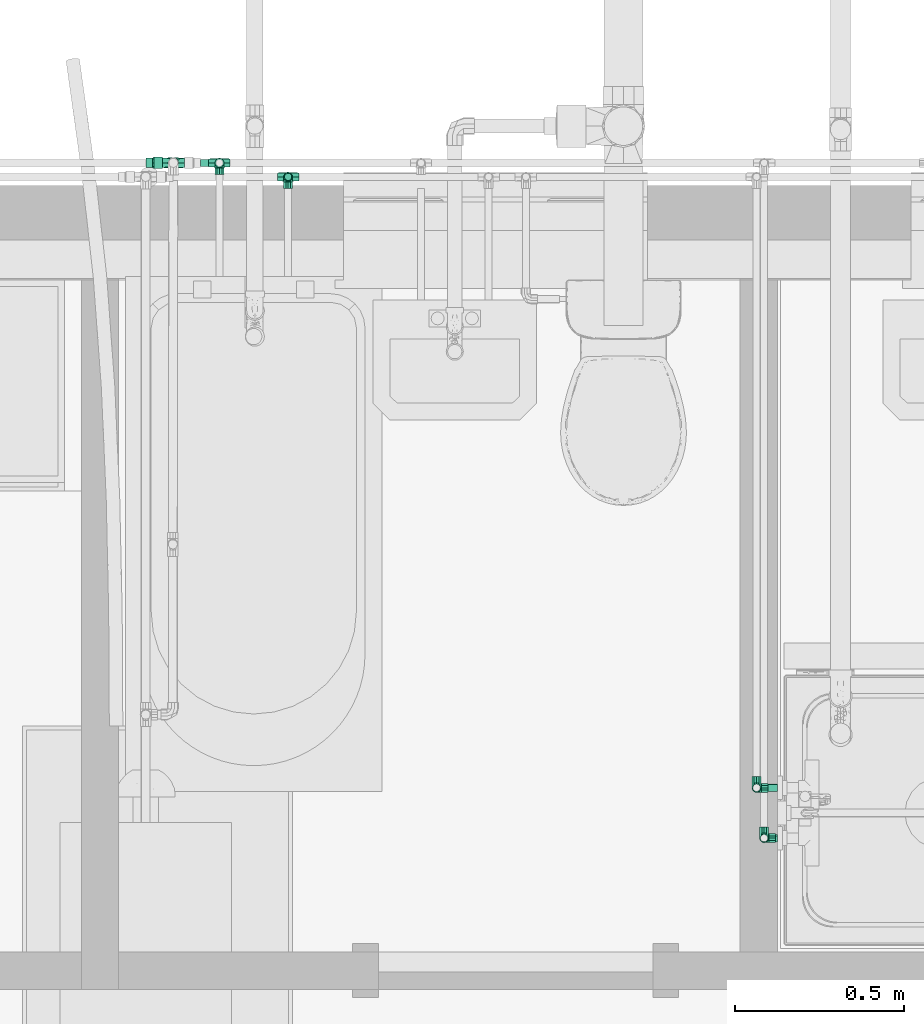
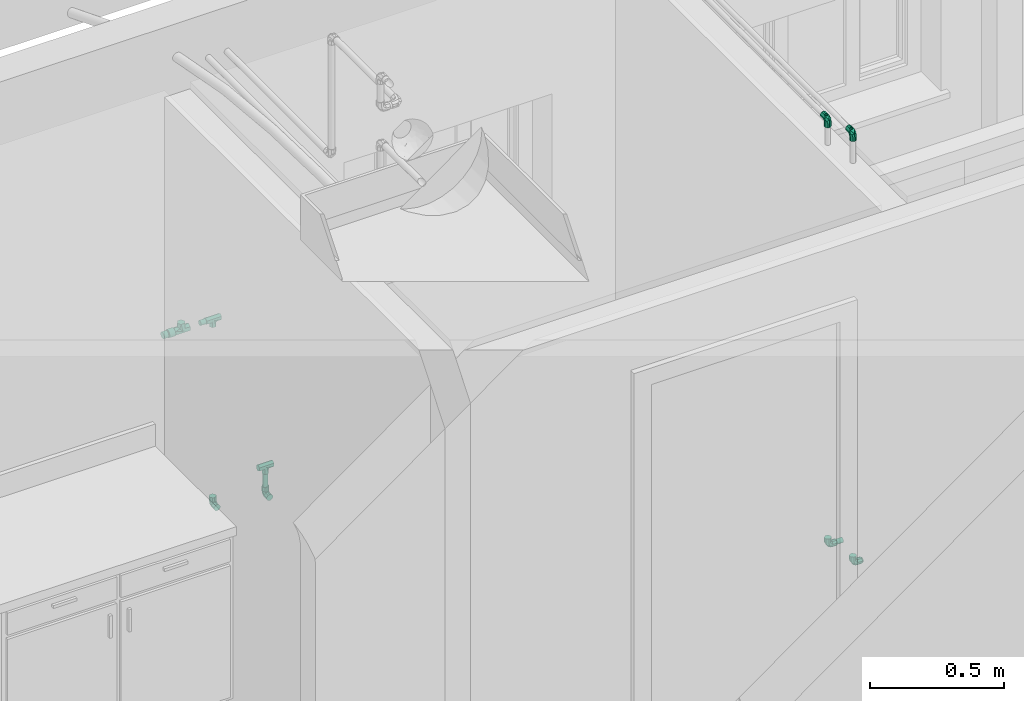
# One storey, part 28 of 41: 10 flow fittings, 4 flow segments.
"""IFC2X3 building model written with IfcOpenShell, lengths in millimetres."""

from ifc_helpers import new_model, entity, si_unit, converted_unit, derived_unit, direction, frame, frame_2d, origin, origin_2d_with_axis, place, context, subcontext, project, spatial, circle, extrude, faceted_brep, source, transform, mapped, type_object, type_shapes, element, save


model = new_model("IFC2X3")

# Units and contexts
model_context = context("Model", 3, precision=0.01, world=origin(), true_north=direction((6.12303176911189e-17, 1.0)))
body_context = subcontext(model_context, "Body", "Model", "MODEL_VIEW")
ifc_project = project(units=[si_unit("LENGTHUNIT", "METRE", prefix="MILLI"), si_unit("AREAUNIT", "SQUARE_METRE"), si_unit("VOLUMEUNIT", "CUBIC_METRE"), converted_unit("PLANEANGLEUNIT", "DEGREE", entity("IfcRatioMeasure", 0.0174532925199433), si_unit("PLANEANGLEUNIT", "RADIAN"), dimensions=[0, 0, 0, 0, 0, 0, 0]), si_unit("MASSUNIT", "GRAM", prefix="KILO"), derived_unit("MASSDENSITYUNIT", [(si_unit("MASSUNIT", "GRAM", prefix="KILO"), 1), (si_unit("LENGTHUNIT", "METRE"), -3)]), si_unit("TIMEUNIT", "SECOND"), si_unit("FREQUENCYUNIT", "HERTZ"), si_unit("THERMODYNAMICTEMPERATUREUNIT", "DEGREE_CELSIUS"), derived_unit("THERMALTRANSMITTANCEUNIT", [(si_unit("MASSUNIT", "GRAM", prefix="KILO"), 1), (si_unit("THERMODYNAMICTEMPERATUREUNIT", "KELVIN"), -1), (si_unit("TIMEUNIT", "SECOND"), -3)]), derived_unit("VOLUMETRICFLOWRATEUNIT", [(si_unit("LENGTHUNIT", "METRE"), 3), (si_unit("TIMEUNIT", "SECOND"), -1)]), si_unit("ELECTRICCURRENTUNIT", "AMPERE"), si_unit("ELECTRICVOLTAGEUNIT", "VOLT"), si_unit("POWERUNIT", "WATT"), si_unit("FORCEUNIT", "NEWTON", prefix="KILO"), si_unit("ILLUMINANCEUNIT", "LUX"), si_unit("LUMINOUSFLUXUNIT", "LUMEN"), si_unit("LUMINOUSINTENSITYUNIT", "CANDELA"), derived_unit("USERDEFINED", [(si_unit("MASSUNIT", "GRAM", prefix="KILO"), -1), (si_unit("LENGTHUNIT", "METRE"), -2), (si_unit("TIMEUNIT", "SECOND"), 3), (si_unit("LUMINOUSFLUXUNIT", "LUMEN"), 1)]), derived_unit("LINEARVELOCITYUNIT", [(si_unit("LENGTHUNIT", "METRE"), 1), (si_unit("TIMEUNIT", "SECOND"), -1)]), si_unit("PRESSUREUNIT", "PASCAL"), derived_unit("USERDEFINED", [(si_unit("LENGTHUNIT", "METRE"), -2), (si_unit("MASSUNIT", "GRAM", prefix="KILO"), 1), (si_unit("TIMEUNIT", "SECOND"), -2)])], contexts=[model_context])

# Site, building, storey
site_placement = place(None, origin())
site = spatial("IfcSite", under=ifc_project, at=site_placement, Name="Surface", CompositionType="ELEMENT")
building_placement = place(site_placement, origin())
building = spatial("IfcBuilding", under=site, at=building_placement, CompositionType="ELEMENT")
storey_placement = place(building_placement, frame((0.0, 0.0, 300.0)))
storey = spatial("IfcBuildingStorey", under=building, at=storey_placement, Name="F.F.L", CompositionType="ELEMENT", Elevation=300.0)

# Flow segments
pipe_segment_type = type_object("IfcPipeSegmentType", Name="Pipe Types:PVC80", PredefinedType="NOTDEFINED")
flow_segment_1_placement = place(storey_placement, origin())
element("IfcFlowSegment", 1, at=flow_segment_1_placement, inside=storey, type_object=pipe_segment_type, Name="Pipe Types:PVC80", ObjectType="Pipe Types:PVC80", context=body_context, shape_type="SweptSolid", body=[
    extrude(circle(Radius=10.668, at=origin_2d_with_axis()), frame((-3975.27517007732, 10850.8400891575, 291.273083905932), z_axis=(0.0, 0.0, 1.0), x_axis=(-1.0, 0.0, 0.0)), (0.0, 0.0, 1.0), 60.1769160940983),
])
flow_segment_2_placement = place(storey_placement, origin())
element("IfcFlowSegment", 2, at=flow_segment_2_placement, inside=storey, type_object=pipe_segment_type, Name="Pipe Types:PVC80", ObjectType="Pipe Types:PVC80", context=body_context, shape_type="SweptSolid", body=[
    extrude(circle(Radius=10.668, at=origin_2d_with_axis()), frame((-2532.27515991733, 8893.13299212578, 633.824237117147), z_axis=(1.0, 0.0, 0.0), x_axis=(0.0, 1.0, 0.0)), (0.0, 0.0, 1.0), 5.39998984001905),
])
flow_segment_3_placement = place(storey_placement, origin())
element("IfcFlowSegment", 3, at=flow_segment_3_placement, inside=storey, type_object=pipe_segment_type, Name="Pipe Types:PVC80", ObjectType="Pipe Types:PVC80", context=body_context, shape_type="SweptSolid", body=[
    extrude(circle(Radius=10.668, at=origin_2d_with_axis()), frame((-2554.77515991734, 9042.15485747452, 633.824237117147), z_axis=(1.0, 0.0, 0.0), x_axis=(0.0, 1.0, 0.0)), (0.0, 0.0, 1.0), 27.8999898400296),
])
flow_segment_4_placement = place(storey_placement, origin())
element("IfcFlowSegment", 4, at=flow_segment_4_placement, inside=storey, type_object=pipe_segment_type, Name="Pipe Types:PVC80", ObjectType="Pipe Types:PVC80", context=body_context, shape_type="SweptSolid", body=[
    extrude(circle(Radius=10.668, at=frame_2d((8.66293703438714e-12, 0.0), x_axis=(1.0, 0.0))), frame((-4234.73581810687, 10892.2567375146, 1100.0), z_axis=(1.0, 0.0, 0.0), x_axis=(0.0, 1.0, 0.0)), (0.0, 0.0, 1.0), 24.5106480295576),
])

# Flow fittings
pipe_fitting_type_1 = type_object("IfcPipeFittingType", Name="Standard", PredefinedType="NOTDEFINED")
shared_shape_1 = source(origin(), body_context, "Body", "Brep", [
    faceted_brep([(-33.7375499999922, 3.59598004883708, -13.4203802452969), (-33.7375499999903, -3.59598004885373, -13.420380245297), (-33.7375499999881, -12.0323837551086, -6.94690000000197), (-33.7375499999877, -13.8938000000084, 0.0), (-33.7375499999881, -12.0323837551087, 6.94689999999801), (-33.7375499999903, -3.59598004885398, 13.4203802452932), (-33.7375499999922, 3.59598004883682, 13.4203802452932), (-33.7375499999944, 12.0323837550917, 6.94689999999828), (-33.7375499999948, 13.8937999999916, 0.0), (-33.7375499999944, 12.0323837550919, -6.94690000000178), (-14.6875499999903, -13.8938000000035, 0.0), (-14.6875499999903, -12.0323837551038, 6.94689999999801), (-14.6875499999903, -3.59598004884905, 13.4203802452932), (-14.6875499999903, 3.59598004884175, 13.4203802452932), (3.59598004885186, 33.7375499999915, 13.4203802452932), (-3.59598004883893, 33.7375499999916, 13.4203802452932), (-3.59598004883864, 14.6875499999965, 13.4203802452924), (3.59598004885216, 14.6875499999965, 13.420380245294), (-14.6875499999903, 12.0323837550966, 6.94689999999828), (-14.6875499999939, 13.8937999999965, 0.0), (-14.6875499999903, 12.0323837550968, -6.94690000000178), (-14.6875499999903, 3.595980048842, -13.4203802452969), (-14.6875499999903, -3.59598004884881, -13.420380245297), (-3.59598004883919, 33.7375499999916, -13.4203802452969), (3.59598004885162, 33.7375499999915, -13.420380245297), (3.59598004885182, 14.6875499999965, -13.4203802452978), (-3.59598004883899, 14.6875499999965, -13.420380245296), (-14.6875499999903, -12.0323837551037, -6.94690000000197), (-0.73570850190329, 0.735706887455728, 12.9461366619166), (-5.12124733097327, -8.86554492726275, 8.82133054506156), (-3.19746952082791, -7.25999894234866, 0.0), (8.85075041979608, 5.0327975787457, 8.79727043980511), (12.0323837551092, 14.6875499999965, 6.94689999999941), (10.0646251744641, 0.396874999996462, 0.0), (-14.1262839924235, 14.1262839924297, 0.0), (-12.0323837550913, 14.6875499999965, 6.94689999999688), (-8.39237862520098, 8.39237845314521, 12.6322359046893), (13.8938000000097, 14.6875499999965, 0.0), (-13.8937999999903, 14.6875499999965, 0.0), (12.032383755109, 14.6875499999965, -6.94690000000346), (8.85074986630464, 5.03279761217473, -8.79727108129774), (-5.12124714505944, -8.86554487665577, -8.82133051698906), (-0.735707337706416, 0.735706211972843, -12.9461361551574), (-12.0323837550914, 14.6875499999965, -6.9469000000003), (-8.39237835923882, 8.3923781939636, -12.6322360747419), (-12.032383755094, 33.7375499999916, -6.94690000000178), (-13.8937999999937, 33.7375499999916, 0.0), (-12.0323837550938, 33.7375499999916, 6.94689999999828), (12.0323837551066, 33.7375499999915, 6.94689999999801), (13.8938000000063, 33.7375499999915, 0.0), (12.0323837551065, 33.7375499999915, -6.94690000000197)], [[[0, 1, 2, 3, 4, 5, 6, 7, 8, 9]], [[3, 10, 11, 4]], [[4, 11, 12, 5]], [[12, 13, 6, 5]], [[14, 15, 16, 17]], [[6, 13, 18, 7]], [[7, 18, 19, 8]], [[8, 19, 20, 9]], [[9, 20, 21, 0]], [[21, 22, 1, 0]], [[23, 24, 25, 26]], [[1, 22, 27, 2]], [[2, 27, 10, 3]], [[12, 28, 13]], [[29, 11, 30]], [[31, 28, 29]], [[28, 12, 29]], [[32, 31, 33]], [[34, 18, 35]], [[18, 36, 35]], [[34, 19, 18]], [[18, 13, 36]], [[11, 10, 30]], [[29, 33, 31]], [[33, 37, 32]], [[29, 30, 33]], [[32, 17, 31]], [[28, 36, 13]], [[34, 35, 38]], [[29, 12, 11]], [[35, 36, 16]], [[28, 16, 36]], [[17, 28, 31]], [[16, 28, 17]], [[20, 19, 34]], [[39, 40, 25]], [[40, 41, 42]], [[20, 43, 44]], [[41, 30, 27]], [[42, 21, 44]], [[41, 33, 30]], [[42, 44, 26]], [[27, 30, 10]], [[20, 34, 43]], [[43, 26, 44]], [[42, 25, 40]], [[41, 27, 22]], [[25, 42, 26]], [[40, 39, 33]], [[22, 21, 42]], [[39, 37, 33]], [[22, 42, 41]], [[33, 41, 40]], [[20, 44, 21]], [[43, 34, 38]], [[23, 45, 46, 47, 15, 14, 48, 49, 50, 24]], [[37, 49, 48, 32]], [[32, 48, 14, 17]], [[16, 15, 47, 35]], [[35, 47, 46, 38]], [[38, 46, 45, 43]], [[43, 45, 23, 26]], [[25, 24, 50, 39]], [[39, 50, 49, 37]]]),
])
type_shapes(pipe_fitting_type_1, [shared_shape_1])
for number, where, z_axis, x_axis, name in (
    (5, (-3975.27517007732, 10850.8400891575, 257.535533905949), (1.0, 0.0, 0.0), (0.0, 1.0, 0.0), "M_Elbow - PVC - Sch 40:Standard"),
    (6, (-4178.47517007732, 10892.2567375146, 257.535533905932), (-1.0, 0.0, 0.0), (0.0, 0.0, -1.0), "M_Elbow - PVC - Sch 40:Standard"),
    (7, (-2566.01270991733, 8893.13299212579, 2600.0), (1.0, 0.0, 0.0), (0.0, -1.0, 0.0), "M_Elbow - PVC - Sch 40:Standard"),
    (8, (-2566.01270991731, 8893.13299212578, 633.82423711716), (0.0, -1.0, 0.0), (0.0, 0.0, -1.0), "M_Elbow - PVC - Sch 40:Standard"),
    (9, (-2588.51270991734, 9042.15485747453, 2580.0), (1.0, 0.0, 0.0), (0.0, -1.0, 0.0), "M_Elbow - PVC - Sch 40:Standard"),
    (10, (-2588.51270991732, 9042.15485747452, 633.824237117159), (0.0, -1.0, 0.0), (0.0, 0.0, -1.0), "M_Elbow - PVC - Sch 40:Standard"),
):
    element("IfcFlowFitting", number, at=place(storey_placement, frame(where, z_axis=z_axis, x_axis=x_axis)), inside=storey, type_object=pipe_fitting_type_1, Name=name, ObjectType="Standard", context=body_context, shape_type="MappedRepresentation", body=[
        mapped(shared_shape_1, transform((0.0, 0.0, 0.0), scale=1.0)),
    ])
pipe_fitting_type_2 = type_object("IfcPipeFittingType", Name="Standard", PredefinedType="NOTDEFINED")
shared_shape_2 = source(origin(), body_context, "Body", "Brep", [
    faceted_brep([(-31.7499999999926, -6.94690000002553, 12.0323837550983), (-31.7499999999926, 0.0, 12.0323837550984), (-31.7499999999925, 6.94689999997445, 12.0323837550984), (-31.7499999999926, 10.4203499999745, 6.01619187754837), (-31.7499999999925, 13.8937999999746, 0.0), (-31.7499999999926, 10.4203499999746, -6.01619187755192), (-31.7499999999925, 6.94689999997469, -12.0323837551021), (-31.7499999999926, 0.0, -12.0323837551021), (-31.7499999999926, -6.94690000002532, -12.0323837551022), (-31.7499999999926, -10.4203500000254, -6.01619187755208), (-31.7499999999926, -13.8938000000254, 0.0), (-31.7499999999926, -12.1942000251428, 2.94379350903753), (-31.7499999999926, -10.4203500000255, 6.0161918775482), (31.7500000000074, -6.94690000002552, -12.0323837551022), (31.7500000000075, 0.0, -12.0323837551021), (31.7500000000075, 6.94689999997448, -12.0323837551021), (31.7500000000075, 10.4945999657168, -5.88758716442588), (31.7500000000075, 13.8937999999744, 0.0), (31.7500000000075, 10.4203499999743, 6.01619187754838), (31.7500000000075, 6.94689999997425, 12.0323837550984), (31.7500000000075, 0.0, 12.0323837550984), (31.7500000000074, -6.94690000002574, 12.0323837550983), (31.7500000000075, -10.4203500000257, 6.01619187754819), (31.7500000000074, -13.8938000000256, 0.0), (31.7500000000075, -12.1941999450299, -2.94379364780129), (31.7500000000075, -10.4203500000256, -6.01619187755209), (11.9878956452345, -11.9878956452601, 4.77993540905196), (10.081991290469, -10.0819912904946, 9.55987081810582), (0.0, 0.0, 13.8937999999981), (-13.8938, -13.8938000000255, 0.0), (-10.8405074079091, -10.8405074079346, 5.75319397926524), (-10.7027027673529, -10.7027027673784, 6.01285361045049), (-7.78721481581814, -7.78721481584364, 11.5063879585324), (13.8938, -13.8938000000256, 0.0), (-11.9878956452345, -11.98789564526, -4.77993540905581), (0.0, 0.0, -13.8938000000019), (-10.0819912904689, -10.0819912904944, -9.55987081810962), (10.840507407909, -10.8405074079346, -5.75319397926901), (10.7027027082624, -10.7027027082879, -6.01285372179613), (7.78721481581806, -7.78721481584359, -11.5063879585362), (6.94690000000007, -31.7500000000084, -12.0323837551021), (10.4946000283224, -31.7500000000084, -5.88758705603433), (13.8938000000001, -31.7500000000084, 0.0), (10.42035, -31.7500000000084, 6.01619187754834), (6.94689999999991, -31.7500000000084, 12.0323837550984), (0.0, -31.7500000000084, 12.0323837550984), (-6.94690000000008, -31.7500000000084, 12.0323837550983), (-10.4946000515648, -31.7500000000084, 5.88758701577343), (-13.8938, -31.7500000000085, 0.0), (-10.4203499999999, -31.7500000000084, -6.01619187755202), (-6.94689999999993, -31.7500000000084, -12.0323837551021), (0.0, -31.7500000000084, -12.0323837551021)], [[[0, 1, 2, 3, 4, 5, 6, 7, 8, 9, 10, 11, 12]], [[13, 14, 15, 16, 17, 18, 19, 20, 21, 22, 23, 24, 25]], [[26, 23, 22]], [[27, 22, 21]], [[28, 21, 20, 19]], [[11, 29, 30, 31]], [[12, 32, 0]], [[23, 26, 33]], [[10, 29, 11]], [[22, 27, 26]], [[21, 28, 27]], [[32, 12, 31]], [[4, 3, 2, 19, 18, 17]], [[32, 1, 0]], [[32, 28, 1]], [[31, 12, 11]], [[2, 28, 19]], [[28, 2, 1]], [[6, 5, 4, 17, 16, 15]], [[10, 34, 29]], [[6, 15, 35]], [[6, 35, 8, 7]], [[9, 36, 34]], [[24, 33, 37, 38]], [[14, 13, 39]], [[33, 24, 23]], [[39, 25, 38]], [[39, 13, 25]], [[36, 8, 35]], [[38, 25, 24]], [[9, 34, 10]], [[35, 15, 14]], [[36, 9, 8]], [[39, 35, 14]], [[40, 41, 42, 43, 44, 45, 46, 47, 48, 49, 50, 51]], [[46, 32, 31, 30]], [[29, 48, 47]], [[47, 30, 29]], [[32, 46, 45]], [[27, 44, 43]], [[33, 43, 42]], [[46, 30, 47]], [[32, 45, 28]], [[43, 33, 26, 27]], [[28, 45, 44]], [[28, 44, 27]], [[40, 39, 38, 37]], [[33, 42, 41]], [[41, 37, 33]], [[39, 40, 51]], [[36, 50, 49]], [[29, 49, 48]], [[40, 37, 41]], [[39, 51, 35]], [[49, 29, 34, 36]], [[35, 51, 50]], [[35, 50, 36]]]),
])
type_shapes(pipe_fitting_type_2, [shared_shape_2])
for number, where, z_axis, x_axis, name in (
    (11, (-3975.27517007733, 10850.8400891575, 383.200000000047), (0.0, -1.0, 0.0), (1.0, 0.0, 0.0), "M_Tee - PVC - Sch 40:Standard"),
    (12, (-4178.47517007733, 10892.2567375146, 1100.0), (0.0, -1.0, 0.0), (1.0, 0.0, 0.0), "M_Tee - PVC - Sch 40:Standard"),
):
    element("IfcFlowFitting", number, at=place(storey_placement, frame(where, z_axis=z_axis, x_axis=x_axis)), inside=storey, type_object=pipe_fitting_type_2, Name=name, ObjectType="Standard", context=body_context, shape_type="MappedRepresentation", body=[
        mapped(shared_shape_2, transform((0.0, 0.0, 0.0), scale=1.0)),
    ])
pipe_fitting_type_3 = type_object("IfcPipeFittingType", Name="Standard", PredefinedType="NOTDEFINED")
shared_shape_3 = source(origin(), body_context, "Body", "Brep", [
    faceted_brep([(-32.5373999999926, -12.2015250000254, -7.04455374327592), (-32.5373999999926, -16.2687000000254, 0.0), (-32.5373999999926, -14.167316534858, 3.63970292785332), (-32.5373999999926, -12.2015250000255, 7.04455374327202), (-32.5373999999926, -8.13435000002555, 14.0891074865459), (-32.5373999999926, 0.0, 14.089107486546), (-32.5373999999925, 8.13434999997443, 14.0891074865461), (-32.5373999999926, 12.2015249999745, 7.04455374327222), (-32.5373999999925, 16.2686999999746, 0.0), (-32.5373999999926, 12.2015249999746, -7.04455374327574), (-32.5373999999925, 8.1343499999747, -14.0891074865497), (-32.5373999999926, 0.0, -14.0891074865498), (-32.5373999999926, -8.13435000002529, -14.0891074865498), (32.5374000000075, 0.0, -14.0891074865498), (32.5374000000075, 8.13434999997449, -14.0891074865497), (32.5374000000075, 12.0659330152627, -7.27940594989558), (32.5374000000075, 16.2686999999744, 0.0), (32.5374000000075, 12.2015249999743, 7.04455374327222), (32.5374000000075, 8.13434999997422, 14.0891074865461), (32.5374000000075, 0.0, 14.089107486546), (32.5374000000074, -8.13435000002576, 14.0891074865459), (32.5374000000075, -12.2015250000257, 7.04455374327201), (32.5374000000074, -16.2687000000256, 0.0), (32.5374000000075, -14.1673163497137, -3.63970324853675), (32.5374000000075, -12.2015250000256, -7.04455374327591), (32.5374000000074, -8.13435000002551, -14.0891074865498), (14.037014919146, -14.0370149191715, 5.59698104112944), (11.8053298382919, -11.8053298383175, 11.1939620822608), (0.0, 0.0, 16.2686999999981), (-16.2687, -16.2687000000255, 0.0), (-12.6935009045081, -12.6935009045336, 6.7366009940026), (-12.3290155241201, -12.3290155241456, 7.42338584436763), (-9.11830180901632, -9.11830180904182, 13.4732019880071), (16.2687, -16.2687000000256, 0.0), (9.11830180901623, -9.11830180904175, -13.4732019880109), (12.329015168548, -12.3290151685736, -7.42338651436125), (0.0, 0.0, -16.2687000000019), (12.6935009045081, -12.6935009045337, -6.73660099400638), (-11.8053298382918, -11.8053298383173, -11.1939620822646), (-14.0370149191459, -14.0370149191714, -5.59698104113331), (8.13435000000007, -32.5374000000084, -14.0891074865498), (12.0659330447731, -32.5374000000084, -7.27940589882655), (16.2687000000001, -32.5374000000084, 0.0), (12.201525, -32.5374000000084, 7.04455374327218), (8.13434999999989, -32.5374000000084, 14.0891074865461), (0.0, -32.5374000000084, 14.089107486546), (-8.1343500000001, -32.5374000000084, 14.0891074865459), (-12.0659330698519, -32.5374000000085, 7.27940585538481), (-16.2687, -32.5374000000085, 0.0), (-12.2015249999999, -32.5374000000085, -7.04455374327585), (-8.13434999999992, -32.5374000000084, -14.0891074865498), (0.0, -32.5374000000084, -14.0891074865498)], [[[0, 1, 2, 3, 4, 5, 6, 7, 8, 9, 10, 11, 12]], [[13, 14, 15, 16, 17, 18, 19, 20, 21, 22, 23, 24, 25]], [[26, 22, 21]], [[27, 21, 20]], [[28, 20, 19, 18]], [[2, 29, 30, 31]], [[3, 32, 4]], [[22, 26, 33]], [[1, 29, 2]], [[21, 27, 26]], [[20, 28, 27]], [[32, 3, 31]], [[8, 7, 6, 18, 17, 16]], [[32, 5, 4]], [[32, 28, 5]], [[31, 3, 2]], [[6, 28, 18]], [[28, 6, 5]], [[14, 10, 9, 8, 16, 15]], [[34, 24, 35]], [[13, 25, 34]], [[10, 14, 36]], [[10, 36, 12, 11]], [[23, 33, 37, 35]], [[34, 36, 13]], [[34, 25, 24]], [[22, 33, 23]], [[12, 38, 0]], [[12, 36, 38]], [[35, 24, 23]], [[0, 39, 1]], [[36, 14, 13]], [[0, 38, 39]], [[1, 39, 29]], [[40, 41, 42, 43, 44, 45, 46, 47, 48, 49, 50, 51]], [[46, 32, 31, 30]], [[29, 48, 47]], [[47, 30, 29]], [[32, 46, 45]], [[27, 44, 43]], [[33, 43, 42]], [[46, 30, 47]], [[32, 45, 28]], [[43, 33, 26, 27]], [[28, 45, 44]], [[28, 44, 27]], [[40, 34, 35, 37]], [[33, 42, 41]], [[41, 37, 33]], [[34, 40, 51]], [[38, 50, 49]], [[29, 49, 48]], [[40, 37, 41]], [[34, 51, 36]], [[49, 29, 39, 38]], [[36, 51, 50]], [[36, 50, 38]]]),
])
type_shapes(pipe_fitting_type_3, [shared_shape_3])
flow_fitting_1_placement = place(storey_placement, frame((-4315.02521810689, 10892.2567375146, 1100.0), z_axis=(0.0, 1.0, 1.5258210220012e-07), x_axis=(1.0, 0.0, 0.0)))
element("IfcFlowFitting", 13, at=flow_fitting_1_placement, inside=storey, type_object=pipe_fitting_type_3, Name="M_Tee - PVC - Sch 40:Standard", ObjectType="Standard", context=body_context, shape_type="MappedRepresentation", body=[
    mapped(shared_shape_3, transform((0.0, 0.0, 0.0), scale=1.0)),
])
pipe_fitting_type_4 = type_object("IfcPipeFittingType", Name="Standard", PredefinedType="NOTDEFINED")
shared_shape_4 = source(origin(), body_context, "Body", "Brep", [
    faceted_brep([(28.7020000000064, -10.1476894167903, 10.147689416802), (28.7020000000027, -11.1985170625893, 7.61076706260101), (28.7020000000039, -12.2493447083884, 5.07384470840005), (28.7020000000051, -13.3001723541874, 2.53692235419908), (28.7020000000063, -14.3510000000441, 0.0), (28.7020000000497, -12.8764694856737, -3.55983156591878), (28.7020000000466, -11.4019389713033, -7.11966313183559), (28.7020000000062, -10.1476894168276, -10.1476894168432), (28.7020000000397, -7.61076706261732, -11.1985170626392), (28.7020000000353, -5.073844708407, -12.2493447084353), (28.702000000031, -2.53692235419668, -13.3001723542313), (28.7020000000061, 0.0, -14.3510000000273), (28.7020000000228, 2.53692235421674, -13.3001723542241), (28.7020000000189, 5.07384470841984, -12.2493447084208), (28.702000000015, 7.61076706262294, -11.1985170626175), (28.7020000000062, 10.147689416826, -10.1476894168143), (28.7020000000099, 11.1985170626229, -7.61076706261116), (28.7020000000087, 12.2493447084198, -5.07384470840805), (28.7020000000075, 13.3001723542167, -2.53692235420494), (28.7020000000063, 14.3509999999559, 0.0), (28.7019999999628, 12.8764694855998, 3.5598315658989), (28.7019999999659, 11.4019389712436, 7.11966313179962), (28.7020000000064, 10.1476894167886, 10.1476894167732), (28.7019999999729, 7.61076706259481, 11.198517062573), (28.7019999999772, 5.07384470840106, 12.2493447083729), (28.7019999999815, 2.5369223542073, 13.3001723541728), (28.7020000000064, 0.0, 14.3509999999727), (28.7019999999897, -2.53692235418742, 13.30017235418), (28.7019999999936, -5.07384470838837, 12.2493447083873), (28.7019999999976, -7.61076706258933, 11.1985170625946), (25.4000000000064, 0.0, 17.0179999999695), (25.3999999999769, 3.00838580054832, 15.7718858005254), (25.3999999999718, 6.01677160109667, 14.5257716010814), (25.3999999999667, 9.02515740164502, 13.2796574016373), (25.4000000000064, 12.0335432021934, 12.0335432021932), (25.3999999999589, 13.2796574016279, 9.02515740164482), (25.3999999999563, 14.5257716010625, 6.01677160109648), (25.3999999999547, 15.2694416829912, 4.22139320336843), (25.4000000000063, 17.018, 0.0), (25.4000000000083, 15.2694417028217, -4.22139315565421), (25.4000000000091, 14.5257716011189, -6.01677160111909), (25.4000000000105, 13.2796574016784, -9.02515740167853), (25.4000000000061, 12.0335432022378, -12.033543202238), (25.4000000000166, 9.02515740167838, -13.2796574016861), (25.4000000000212, 6.01677160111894, -14.5257716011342), (25.4000000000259, 3.00838580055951, -15.7718858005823), (25.4000000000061, 0.0, -17.0180000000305), (25.4000000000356, -3.00838580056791, -15.7718858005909), (25.4000000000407, -6.0167716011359, -14.5257716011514), (25.4000000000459, -9.02515740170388, -13.2796574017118), (25.4000000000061, -12.0335432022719, -12.0335432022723), (25.4000000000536, -13.279657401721, -9.02515740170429), (25.4000000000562, -14.5257716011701, -6.01677160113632), (25.4000000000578, -15.2694416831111, -4.22139320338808), (25.4000000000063, -17.018, 0.0), (25.4000000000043, -15.2694417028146, 4.22139315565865), (25.4000000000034, -14.5257716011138, 6.01677160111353), (25.400000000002, -13.2796574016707, 9.02515740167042), (25.4000000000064, -12.0335432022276, 12.0335432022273), (25.399999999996, -9.0251574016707, 13.2796574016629), (25.3999999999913, -6.01677160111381, 14.5257716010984), (25.3999999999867, -3.00838580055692, 15.771885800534)], [[[0, 1, 2, 3, 4, 5, 6, 7, 8, 9, 10, 11, 12, 13, 14, 15, 16, 17, 18, 19, 20, 21, 22, 23, 24, 25, 26, 27, 28, 29]], [[30, 31, 32, 33, 34, 35, 36, 37, 38, 39, 40, 41, 42, 43, 44, 45, 46, 47, 48, 49, 50, 51, 52, 53, 54, 55, 56, 57, 58, 59, 60, 61]], [[4, 54, 53, 52, 51, 50, 7, 6, 5]], [[49, 48, 47, 46, 11, 10, 9, 8, 7, 50]], [[17, 16, 15, 42, 41, 40, 39, 38, 19, 18]], [[12, 11, 46, 45, 44, 43, 42, 15, 14, 13]], [[19, 38, 37, 36, 35, 34, 22, 21, 20]], [[33, 32, 31, 30, 26, 25, 24, 23, 22, 34]], [[2, 1, 0, 58, 57, 56, 55, 54, 4, 3]], [[27, 26, 30, 61, 60, 59, 58, 0, 29, 28]]]),
    faceted_brep([(47.7520000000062, -10.1476894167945, -10.1476894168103), (47.7520000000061, -7.17549999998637, -12.4283305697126), (47.7520000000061, -3.71431211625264, -13.8620015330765), (47.7520000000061, 0.0, -14.3510000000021), (47.7520000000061, 3.7143121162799, -13.8620015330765), (47.7520000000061, 7.17550000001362, -12.4283305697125), (47.7520000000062, 10.1476894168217, -10.1476894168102), (47.7520000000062, 12.4283305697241, -7.17550000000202), (47.7520000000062, 13.862001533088, -3.7143121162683), (47.7520000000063, 14.3510000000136, 0.0), (47.7520000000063, 13.862001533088, 3.71431211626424), (47.7520000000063, 12.428330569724, 7.17549999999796), (47.7520000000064, 10.1476894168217, 10.1476894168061), (47.7520000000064, 7.17550000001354, 12.4283305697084), (47.7520000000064, 3.71431211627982, 13.8620015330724), (47.7520000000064, 0.0, 14.3509999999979), (47.7520000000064, -3.71431211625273, 13.8620015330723), (47.7520000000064, -7.17549999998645, 12.4283305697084), (47.7520000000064, -10.1476894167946, 10.1476894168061), (47.7520000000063, -12.4283305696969, 7.17549999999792), (47.7520000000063, -13.8620015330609, 3.7143121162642), (47.7520000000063, -14.3509999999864, 0.0), (47.7520000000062, -13.8620015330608, -3.71431211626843), (47.7520000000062, -12.4283305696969, -7.17550000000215), (28.7020000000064, 0.0, 14.3509999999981), (28.7020000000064, 3.71431211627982, 13.8620015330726), (28.7020000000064, 7.17550000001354, 12.4283305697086), (28.7020000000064, 10.1476894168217, 10.1476894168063), (28.7020000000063, 12.428330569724, 7.17549999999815), (28.7020000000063, 13.862001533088, 3.71431211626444), (28.7020000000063, 14.3510000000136, 0.0), (28.7020000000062, 13.862001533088, -3.7143121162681), (28.7020000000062, 12.4283305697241, -7.17550000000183), (28.7020000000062, 10.1476894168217, -10.14768941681), (28.7020000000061, 7.17550000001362, -12.4283305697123), (28.7020000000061, 3.7143121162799, -13.8620015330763), (28.7020000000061, 0.0, -14.3510000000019), (28.7020000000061, -3.71431211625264, -13.8620015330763), (28.7020000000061, -7.17549999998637, -12.4283305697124), (28.7020000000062, -10.1476894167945, -10.1476894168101), (28.7020000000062, -12.4283305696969, -7.17550000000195), (28.7020000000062, -13.8620015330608, -3.71431211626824), (28.7020000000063, -14.3509999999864, 0.0), (28.7020000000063, -13.8620015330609, 3.71431211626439), (28.7020000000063, -12.4283305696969, 7.17549999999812), (28.7020000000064, -10.1476894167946, 10.1476894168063), (28.7020000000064, -7.17549999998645, 12.4283305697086), (28.7020000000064, -3.71431211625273, 13.8620015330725)], [[[0, 1, 2, 3, 4, 5, 6, 7, 8, 9, 10, 11, 12, 13, 14, 15, 16, 17, 18, 19, 20, 21, 22, 23]], [[24, 25, 26, 27, 28, 29, 30, 31, 32, 33, 34, 35, 36, 37, 38, 39, 40, 41, 42, 43, 44, 45, 46, 47]], [[30, 9, 8, 31]], [[31, 8, 7, 32]], [[34, 33, 6, 5]], [[6, 33, 32, 7]], [[35, 34, 5, 4]], [[35, 4, 3, 36]], [[36, 3, 2, 37]], [[37, 2, 1, 38]], [[22, 21, 42, 41]], [[38, 1, 0, 39]], [[0, 23, 40, 39]], [[23, 22, 41, 40]], [[42, 21, 20, 43]], [[43, 20, 19, 44]], [[46, 45, 18, 17]], [[18, 45, 44, 19]], [[47, 46, 17, 16]], [[47, 16, 15, 24]], [[27, 26, 13, 12]], [[29, 28, 11, 10]], [[12, 11, 28, 27]], [[30, 29, 10, 9]], [[13, 26, 25, 14]], [[24, 15, 14, 25]]]),
    faceted_brep([(25.4000000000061, -12.0335432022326, -12.033543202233), (25.4000000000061, -8.50899999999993, -14.7380203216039), (25.4000000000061, -4.40458250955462, -16.4381257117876), (25.4000000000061, 0.0, -17.0180000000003), (25.4000000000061, 4.40458250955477, -16.4381257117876), (25.4000000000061, 8.50900000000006, -14.7380203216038), (25.4000000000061, 12.0335432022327, -12.0335432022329), (25.4000000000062, 14.7380203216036, -8.50900000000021), (25.4000000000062, 16.4381257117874, -4.4045825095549), (25.4000000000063, 17.018, 0.0), (25.4000000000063, 16.4381257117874, 4.40458250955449), (25.4000000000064, 14.7380203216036, 8.50899999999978), (25.4000000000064, 12.0335432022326, 12.0335432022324), (25.4000000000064, 8.50899999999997, 14.7380203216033), (25.4000000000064, 4.40458250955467, 16.4381257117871), (25.4000000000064, 0.0, 17.0179999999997), (25.4000000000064, -4.40458250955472, 16.4381257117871), (25.4000000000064, -8.50900000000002, 14.7380203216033), (25.4000000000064, -12.0335432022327, 12.0335432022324), (25.4000000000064, -14.7380203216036, 8.50899999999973), (25.4000000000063, -16.4381257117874, 4.40458250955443), (25.4000000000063, -17.018, 0.0), (25.4000000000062, -16.4381257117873, -4.40458250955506), (25.4000000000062, -14.7380203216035, -8.50900000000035), (0.0, -4.40458250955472, 16.4381257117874), (0.0, 0.0, 17.018), (0.0, 4.40458250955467, 16.4381257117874), (0.0, 8.50899999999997, 14.7380203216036), (0.0, 12.0335432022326, 12.0335432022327), (0.0, 14.7380203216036, 8.50900000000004), (0.0, 16.4381257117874, 4.40458250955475), (0.0, 17.018, 0.0), (0.0, 16.4381257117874, -4.40458250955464), (0.0, 14.7380203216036, -8.50899999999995), (0.0, 12.0335432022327, -12.0335432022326), (0.0, 8.50900000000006, -14.7380203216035), (0.0, 4.40458250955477, -16.4381257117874), (0.0, 0.0, -17.018), (0.0, -4.40458250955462, -16.4381257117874), (0.0, -8.50899999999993, -14.7380203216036), (0.0, -12.0335432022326, -12.0335432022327), (0.0, -14.7380203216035, -8.50900000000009), (0.0, -16.4381257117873, -4.4045825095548), (0.0, -17.018, 0.0), (0.0, -16.4381257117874, 4.40458250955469), (0.0, -14.7380203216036, 8.509), (0.0, -12.0335432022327, 12.0335432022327), (0.0, -8.50900000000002, 14.7380203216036)], [[[0, 1, 2, 3, 4, 5, 6, 7, 8, 9, 10, 11, 12, 13, 14, 15, 16, 17, 18, 19, 20, 21, 22, 23]], [[24, 25, 26, 27, 28, 29, 30, 31, 32, 33, 34, 35, 36, 37, 38, 39, 40, 41, 42, 43, 44, 45, 46, 47]], [[31, 9, 8, 32]], [[32, 8, 7, 33]], [[35, 34, 6, 5]], [[6, 34, 33, 7]], [[36, 35, 5, 4]], [[3, 37, 36, 4]], [[39, 38, 2, 1]], [[39, 1, 0, 40]], [[42, 41, 23, 22]], [[0, 23, 41, 40]], [[43, 42, 22, 21]], [[38, 37, 3, 2]], [[43, 21, 20, 44]], [[44, 20, 19, 45]], [[47, 46, 18, 17]], [[18, 46, 45, 19]], [[24, 47, 17, 16]], [[15, 25, 24, 16]], [[27, 26, 14, 13]], [[27, 13, 12, 28]], [[30, 29, 11, 10]], [[12, 11, 29, 28]], [[31, 30, 10, 9]], [[14, 26, 25, 15]]]),
])
type_shapes(pipe_fitting_type_4, [shared_shape_4])
flow_fitting_2_placement = place(storey_placement, frame((-4347.56261810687, 10892.2567375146, 1100.0), z_axis=(0.0, -1.5258210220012e-07, 1.0), x_axis=(-1.0, 0.0, 0.0)))
element("IfcFlowFitting", 14, at=flow_fitting_2_placement, inside=storey, type_object=pipe_fitting_type_4, Name="M_Coupling Reducing - PVC - Sch 40:Standard", ObjectType="Standard", context=body_context, shape_type="MappedRepresentation", body=[
    mapped(shared_shape_4, transform((0.0, 0.0, 0.0), scale=1.0)),
])

save(model, "model.ifc")
